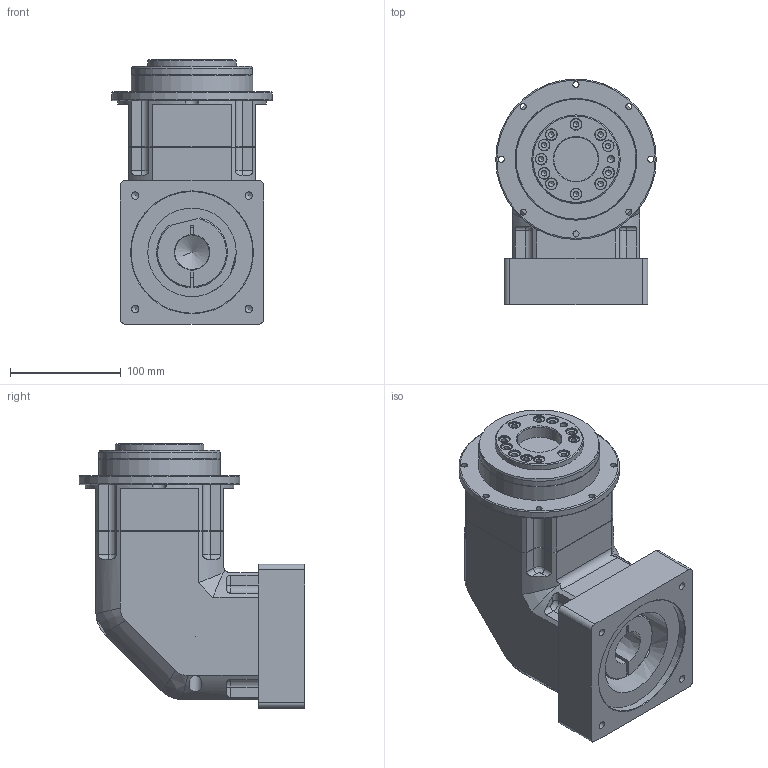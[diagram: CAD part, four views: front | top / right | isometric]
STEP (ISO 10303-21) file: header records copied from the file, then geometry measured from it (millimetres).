
FILE_DESCRIPTION((''),'2;1');
FILE_NAME('C:\Documents and Settings\nagyu\바탕 화면\유성감속기 3D\SPLF115\SPLF115S004~020FA.stp','2009-10-27T09:46:08',('nagyu'),(''),'Autodesk Inventor 2010','Autodesk Inventor 2010','');
FILE_SCHEMA(('AUTOMOTIVE_DESIGN { 1 0 10303 214 1 1 1 1 }'));
Length unit declared in the file: millimetre
Products named in the file (4): SPLF115 1단; SPIF115; 115각 INPUT ADAPTER FLANGE; SPL115 GEARCASE
Assembly tree (3 placements, depth 2):
  SPLF115 1단
    SPIF115
    115각 INPUT ADAPTER FLANGE
    SPL115 GEARCASE
Bounding box: 145 x 203.8 x 239 mm (x, y, z)
Volume: 3063779.4 mm3; surface area: 264746.7 mm2
Topology: 4 solids, 4 shells, 301 faces, 758 edges, 488 vertices
Faces by surface type: plane 96, cylinder 92, bspline 79, cone 32, torus 2
Full cylindrical faces by diameter (mm): 5.5 x8, 6.6 x4, 11 x4, 45 x1, 72 x1, 80 x1, 90 x2, 92 x1, 100 x1, 109.4 x1, 110 x1, 145 x1
Entity records: 9923 total; most frequent: CARTESIAN_POINT 3341, DIRECTION 1281, ORIENTED_EDGE 1222, EDGE_CURVE 611, AXIS2_PLACEMENT_3D 520, EDGE_LOOP 454, VERTEX_POINT 439, FACE_OUTER_BOUND 301
